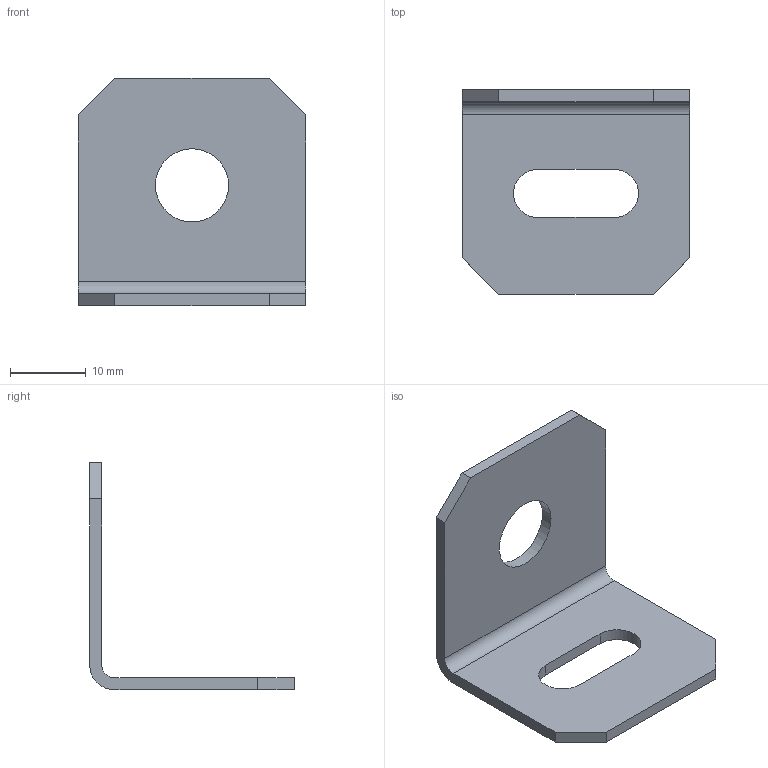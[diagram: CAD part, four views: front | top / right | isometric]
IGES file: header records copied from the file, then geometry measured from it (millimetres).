
Global section: file name: No Iges File Name specified; native system: AutoDesk Inventor R5.0; preprocessor: AutoDesk Inventor Iges Exporter R5.0; author: No Author specified; organization: No Organization specified; date: 20061105.205515; units: inch
Bounding box: 30 x 27 x 30 mm (x, y, z)
Surface area: 3195.2 mm2 (no closed solid volume)
Topology: 0 solids, 0 shells, 19 faces, 102 edges, 101 vertices
Faces by surface type: plane 14, revolution 4, bspline 1
